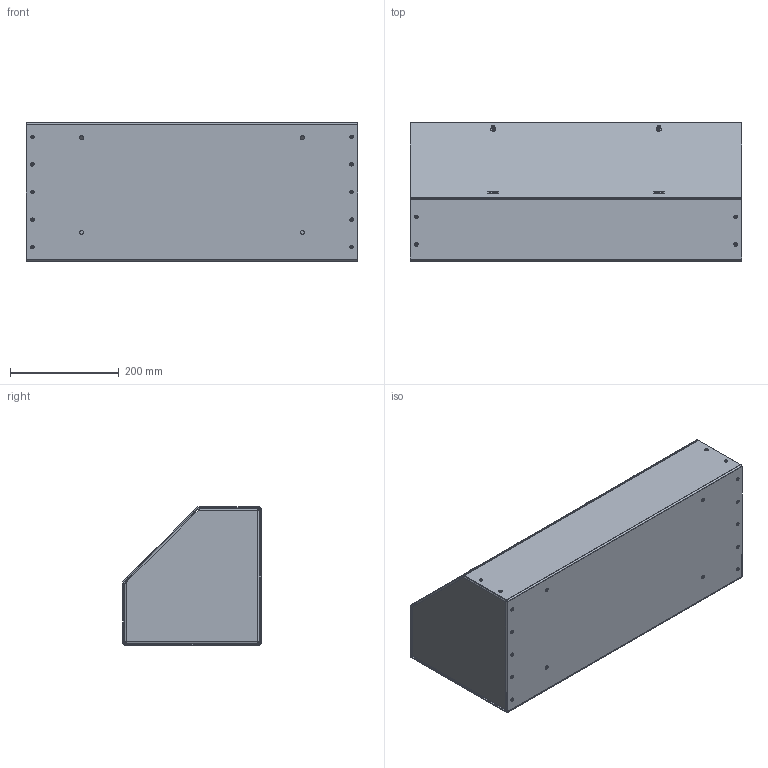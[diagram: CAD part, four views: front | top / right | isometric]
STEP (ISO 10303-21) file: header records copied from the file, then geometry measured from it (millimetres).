
FILE_DESCRIPTION (( 'STEP AP203' ), '1' );
FILE_NAME ('at101024.STEP', '2017-10-03T15:10:25', ( '' ), ( '' ), 'SwSTEP 2.0', 'SolidWorks 2014', '' );
FILE_SCHEMA (( 'CONFIG_CONTROL_DESIGN' ));
Length unit declared in the file: inch
Products named in the file (7): 89159113; 89159123; 16111002_INSTALLED .144 THICKNESS; 89159157; 89159136; 87780048; at101024
Assembly tree (34 placements, depth 3):
  at101024
    89159157
      89159113
      89159123  x2
      16111002_INSTALLED .144 THICKNESS  x28
    89159136
    87780048
Bounding box: 609.6 x 255.83 x 255.83 mm (x, y, z)
Volume: 1313427.6 mm3; surface area: 1461069.6 mm2
Topology: 33 solids, 33 shells, 1064 faces, 2416 edges, 1444 vertices
Faces by surface type: cylinder 432, plane 328, cone 168, bspline 128, torus 8
Entity records: 14431 total; most frequent: CARTESIAN_POINT 2642, DIRECTION 2210, ORIENTED_EDGE 2082, EDGE_CURVE 1041, AXIS2_PLACEMENT_3D 783, VERTEX_POINT 659, VECTOR 644, LINE 644
